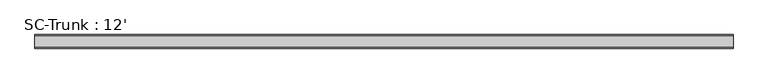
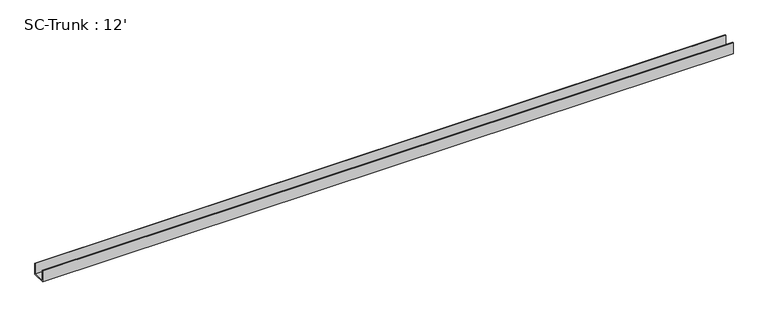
"""IFC4 building model written with IfcOpenShell, lengths in millimetres: proxy geometry, SC-Trunk : 12'."""

from ifc_helpers import new_model, si_unit, frame, origin, place, context, project, spatial, polyline, outline, extrude, source, transform, mapped, element, save


def sc_trunk_12_ba87172d(model_context):
    return source(origin(), model_context, "Body", "SweptSolid", [
        extrude(outline(polyline([(29.845, 57.15), (33.02, 57.15), (33.02, 0.0), (-33.02, 0.0), (-33.02, 57.15), (-29.845, 57.15), (-29.845, 3.175), (29.845, 3.175), (29.845, 57.15)])), frame((-1689.1, 0.0, 0.0), z_axis=(1.0, 0.0, 0.0), x_axis=(0.0, 1.0, 0.0)), (0.0, 0.0, 1.0), 3378.2),
    ])


if __name__ == "__main__":
    model = new_model("IFC4")
    model_context = context("Model", 3, world=origin())
    ifc_project = project(units=[si_unit("LENGTHUNIT", "METRE", prefix="MILLI")], contexts=[model_context])
    site = spatial("IfcSite", under=ifc_project)
    building = spatial("IfcBuilding", under=site)
    placement = place(None, origin())
    sc_trunk_12_shape = sc_trunk_12_ba87172d(model_context)
    element("IfcBuildingElementProxy", 1, Name="SC-Trunk : 12'", ObjectType="SC-Trunk : 12'", at=placement, inside=building, context=model_context, shape_type="MappedRepresentation", body=[
        mapped(sc_trunk_12_shape, transform((0.0, 0.0, 0.0), x_axis=(1.0, 0.0, 0.0), y_axis=(0.0, 1.0, 0.0), z_axis=(0.0, 0.0, 1.0))),
    ])
    save(model, "model.ifc")
